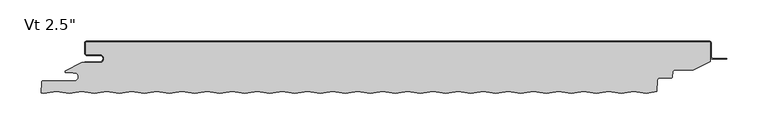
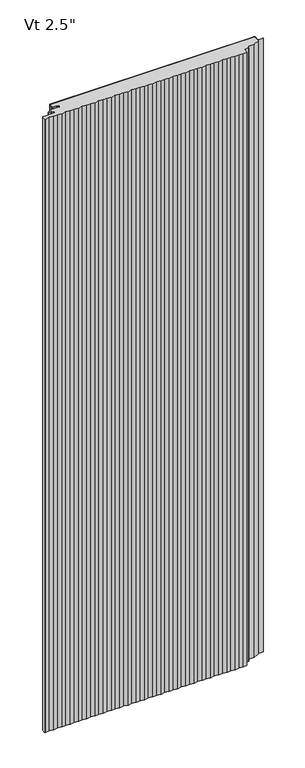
"""IFC4 building model written with IfcOpenShell, lengths in millimetres: plate geometry."""

from ifc_helpers import new_model, si_unit, point, frame_2d, origin, origin_with_axes, place, context, project, spatial, polyline, circle_curve, trimmed, segment, composite_curve, outline, extrude, source, transform, mapped, element, save


def plate_c0eab981(model_context):
    return source(origin(), model_context, "Body", "SweptSolid", [
        extrude(outline(composite_curve([segment(polyline([(-361.94375, -16.4625), (-377.81875, -16.4625)]), True, "CONTINUOUS"), segment(trimmed(circle_curve(frame_2d((-377.81875, -15.08125)), 1.38125), [point((-377.81875, -16.4625))], [point((-379.2, -15.08125))], False, "CARTESIAN"), True, "CONTINUOUS"), segment(polyline([(-379.2, -15.08125), (-379.2, -2.38125)]), True, "CONTINUOUS"), segment(trimmed(circle_curve(frame_2d((-377.81875, -2.38125)), 1.38125), [point((-379.2, -2.38125))], [point((-377.81875, -1.0))], False, "CARTESIAN"), True, "CONTINUOUS"), segment(polyline([(-377.81875, -1.0), (377.83125, -1.0)]), True, "CONTINUOUS"), segment(trimmed(circle_curve(frame_2d((377.83125, -2.38125)), 1.38125), [point((377.83125, -1.0))], [point((379.2125, -2.38125))], False, "CARTESIAN"), True, "CONTINUOUS"), segment(polyline([(379.2125, -2.38125), (379.2125, -24.9057308), (358.3955434, -35.5125), (335.9540783, -35.5125)]), True, "CONTINUOUS"), segment(trimmed(circle_curve(frame_2d((335.9540783, -38.1)), 2.5875), [point((335.9540783, -35.5125))], [point((333.3701244, -37.9645807))], True, "CARTESIAN"), True, "CONTINUOUS"), segment(polyline([(333.3701244, -37.9645807), (333.0680481, -43.728539)]), True, "CONTINUOUS"), segment(trimmed(circle_curve(frame_2d((331.6886911, -43.65625)), 1.38125), [point((333.0680481, -43.728539))], [point((331.6886911, -45.0375))], False, "CARTESIAN"), True, "CONTINUOUS"), segment(polyline([(331.6886911, -45.0375), (317.5323847, -45.0375)]), True, "CONTINUOUS"), segment(trimmed(circle_curve(frame_2d((317.5323847, -47.625)), 2.5875), [point((317.5323847, -45.0375))], [point((314.9484307, -47.4895807))], True, "CARTESIAN"), True, "CONTINUOUS"), segment(polyline([(314.9484307, -47.4895807), (314.2106485, -61.5673048), (301.4725, -63.6054086), (286.4350675, -61.1994194), (271.1950675, -63.6378194), (255.9550675, -61.1994194), (240.7150675, -63.6378194), (225.4750675, -61.1994194), (210.2350675, -63.6378194), (194.9950675, -61.1994194), (179.7550675, -63.6378194), (164.5150675, -61.1994194), (149.2750675, -63.6378194), (134.0350675, -61.1994194), (118.7950675, -63.6378194), (103.5550675, -61.1994194), (88.3150675, -63.6378194), (73.0750675, -61.1994194), (57.8350675, -63.6378194), (42.5950675, -61.1994194), (27.3550675, -63.6378194), (12.1150675, -61.1994194), (-3.1249325, -63.6378194), (-18.3649325, -61.1994194), (-33.6049325, -63.6378194), (-48.8449325, -61.1994194), (-64.0849325, -63.6378194), (-79.3249325, -61.1994194), (-94.5649325, -63.6378194), (-109.8049325, -61.1994194), (-125.0449325, -63.6378194), (-140.2849325, -61.1994194), (-155.5249325, -63.6378194), (-170.7649325, -61.1994194), (-186.0049325, -63.6378194), (-201.2449325, -61.1994194), (-216.4849325, -63.6378194), (-231.7249325, -61.1994194), (-246.9649325, -63.6378194), (-262.2049325, -61.1994194), (-277.4449325, -63.6378194), (-292.6849325, -61.1994194), (-307.9249325, -63.6378194), (-323.1649325, -61.1994194), (-338.4049325, -63.6378194), (-353.6449325, -61.1994194), (-368.8849325, -63.6378194), (-384.1249325, -61.1994194), (-399.3649325, -63.6378194), (-414.6049325, -61.1994194), (-429.8449325, -63.6378194), (-433.1672594, -63.1062471), (-432.4769291, -49.933961)]), True, "CONTINUOUS"), segment(trimmed(circle_curve(frame_2d((-431.0975721, -50.00625)), 1.38125), [point((-432.4769291, -49.933961))], [point((-431.0975721, -48.625))], False, "CARTESIAN"), True, "CONTINUOUS"), segment(polyline([(-431.0975721, -48.625), (-392.9142674, -48.625)]), True, "CONTINUOUS"), segment(trimmed(circle_curve(frame_2d((-392.9142674, -43.65625)), 4.96875), [point((-392.9142674, -48.625))], [point((-392.9142674, -38.6875))], True, "CARTESIAN"), True, "CONTINUOUS"), segment(polyline([(-392.9142674, -38.6875), (-394.5017674, -38.89375), (-394.5017674, -38.1), (-404.0125, -38.1), (-404.0125, -36.5326309), (-384.1260922, -26.4), (-361.94375, -26.4)]), True, "CONTINUOUS"), segment(trimmed(circle_curve(frame_2d((-361.94375, -21.43125)), 4.96875), [point((-361.94375, -26.4))], [point((-361.94375, -16.4625))], True, "CARTESIAN"), True, "CONTINUOUS")], self_intersect=False)), origin_with_axes(), (0.0, 0.0, 1.0), 2400.0),
        extrude(outline(composite_curve([segment(polyline([(-380.2, -25.4), (-361.94375, -25.4)]), True, "CONTINUOUS"), segment(trimmed(circle_curve(frame_2d((-361.94375, -21.43125)), 3.96875), [point((-361.94375, -25.4))], [point((-361.94375, -17.4625))], True, "CARTESIAN"), True, "CONTINUOUS"), segment(polyline([(-361.94375, -17.4625), (-377.81875, -17.4625)]), True, "CONTINUOUS"), segment(trimmed(circle_curve(frame_2d((-377.81875, -15.08125)), 2.38125), [point((-377.81875, -17.4625))], [point((-380.2, -15.08125))], False, "CARTESIAN"), True, "CONTINUOUS"), segment(polyline([(-380.2, -15.08125), (-380.2, -2.38125)]), True, "CONTINUOUS"), segment(trimmed(circle_curve(frame_2d((-377.81875, -2.38125)), 2.38125), [point((-380.2, -2.38125))], [point((-377.81875, 0.0))], False, "CARTESIAN"), True, "CONTINUOUS"), segment(polyline([(-377.81875, 0.0), (377.83125, 0.0)]), True, "CONTINUOUS"), segment(trimmed(circle_curve(frame_2d((377.83125, -2.38125)), 2.38125), [point((377.83125, 0.0))], [point((380.2125, -2.38125))], False, "CARTESIAN"), True, "CONTINUOUS"), segment(polyline([(380.2125, -2.38125), (380.2125, -19.446875)]), True, "CONTINUOUS"), segment(trimmed(circle_curve(frame_2d((381.8, -19.446875)), 1.5875), [point((380.2125, -19.446875))], [point((381.8, -21.034375))], True, "CARTESIAN"), True, "CONTINUOUS"), segment(polyline([(381.8, -21.034375), (399.2625, -21.034375), (399.2625, -22.034375), (381.8, -22.034375)]), True, "CONTINUOUS"), segment(trimmed(circle_curve(frame_2d((381.8, -19.446875)), 2.5875), [point((381.8, -22.034375))], [point((379.2125, -19.446875))], False, "CARTESIAN"), True, "CONTINUOUS"), segment(polyline([(379.2125, -19.446875), (379.2125, -2.38125)]), True, "CONTINUOUS"), segment(trimmed(circle_curve(frame_2d((377.83125, -2.38125)), 1.38125), [point((379.2125, -2.38125))], [point((377.83125, -1.0))], True, "CARTESIAN"), True, "CONTINUOUS"), segment(polyline([(377.83125, -1.0), (-377.81875, -1.0)]), True, "CONTINUOUS"), segment(trimmed(circle_curve(frame_2d((-377.81875, -2.38125)), 1.38125), [point((-377.81875, -1.0))], [point((-379.2, -2.38125))], True, "CARTESIAN"), True, "CONTINUOUS"), segment(polyline([(-379.2, -2.38125), (-379.2, -15.08125)]), True, "CONTINUOUS"), segment(trimmed(circle_curve(frame_2d((-377.81875, -15.08125)), 1.38125), [point((-379.2, -15.08125))], [point((-377.81875, -16.4625))], True, "CARTESIAN"), True, "CONTINUOUS"), segment(polyline([(-377.81875, -16.4625), (-361.94375, -16.4625)]), True, "CONTINUOUS"), segment(trimmed(circle_curve(frame_2d((-361.94375, -21.43125)), 4.96875), [point((-361.94375, -16.4625))], [point((-361.94375, -26.4))], False, "CARTESIAN"), True, "CONTINUOUS"), segment(polyline([(-361.94375, -26.4), (-380.2, -26.4), (-380.2, -25.4)]), True, "CONTINUOUS")], self_intersect=False)), origin_with_axes(), (0.0, 0.0, 1.0), 2400.0),
    ])


if __name__ == "__main__":
    model = new_model("IFC4")
    model_context = context("Model", 3, world=origin())
    ifc_project = project(units=[si_unit("LENGTHUNIT", "METRE", prefix="MILLI")], contexts=[model_context])
    site = spatial("IfcSite", under=ifc_project)
    building = spatial("IfcBuilding", under=site)
    placement = place(None, origin())
    plate_shape = plate_c0eab981(model_context)
    element("IfcPlate", 1, ObjectType="KIP-30-DWHR-R19-CP-Vt-S : Vt 2.5\"", at=placement, inside=building, context=model_context, shape_type="MappedRepresentation", body=[
        mapped(plate_shape, transform((0.0, 0.0, 0.0), x_axis=(1.0, 0.0, 0.0), y_axis=(0.0, 1.0, 0.0), z_axis=(0.0, 0.0, 1.0))),
    ])
    save(model, "model.ifc")
